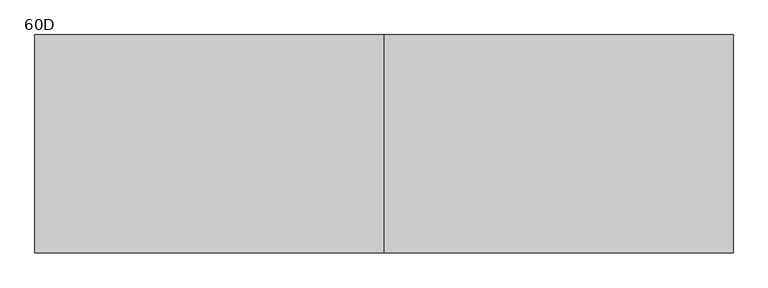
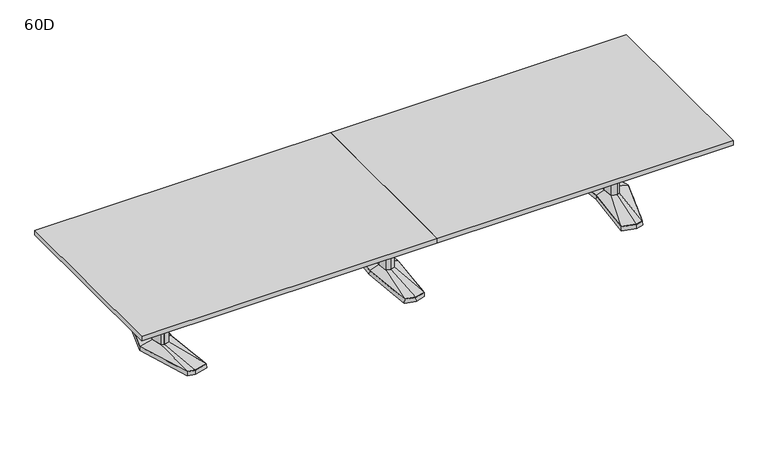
"""IFC4 building model written with IfcOpenShell, lengths in millimetres: furniture geometry, Coalesse_AM_Table_Conference_ETable2_Rectangular_16ft_AluminiumBase : 60D."""

from ifc_helpers import new_model, si_unit, frame, origin, place, context, project, spatial, polyline, outline, extrude, faceted_brep, source, transform, mapped, element, save
from ifc_brep_helpers import plane_surface, spline_surface, advanced_brep


def furniture_60d_a288c0e9(model_context):
    return source(origin(), model_context, "Body", "SolidModel", [
        faceted_brep([(-81.2333791, -433.8053819, 38.1), (0.0, -455.556576, 38.1), (81.2333791, -433.8053819, 38.1), (119.0564774, 0.0, 38.1), (81.2333791, 433.8053819, 38.1), (0.0, 455.556576, 38.1), (-81.2333791, 433.8053819, 38.1), (-119.0564774, 0.0, 38.1), (-82.7182795, -435.0512063, 3.175), (-120.65, 0.0, 3.175), (-82.7182795, 435.0512063, 3.175), (0.0, 457.2, 3.175), (82.7182795, 435.0512063, 3.175), (120.65, 0.0, 3.175), (82.7182795, -435.0512063, 3.175), (0.0, -457.2, 3.175), (0.0, 429.2617927, 3.175), (-77.9676806, 408.3850278, 3.175), (-74.7019821, 382.9646737, 3.175), (0.0, 402.9670094, 3.175), (74.7019821, 382.9646737, 3.175), (77.9676806, 408.3850278, 3.175), (0.0, -429.2617927, 3.175), (77.9676806, -408.3850278, 3.175), (74.7019821, -382.9646737, 3.175), (0.0, -402.9670094, 3.175), (-74.7019821, -382.9646737, 3.175), (-77.9676806, -408.3850278, 3.175), (-71.8574262, 114.6326257, 3.175), (-82.5426076, 0.0, 3.175), (-71.8574262, -114.6326257, 3.175), (0.0, -133.8761372, 3.175), (71.8574262, -114.6326257, 3.175), (82.5426076, 0.0, 3.175), (71.8574262, 114.6326257, 3.175), (0.0, 133.8761372, 3.175), (0.0, 429.2617927, 0.0), (77.9676806, 408.3850278, 0.0), (74.7019821, 382.9646737, 0.0), (0.0, 402.9670094, 0.0), (-74.7019821, 382.9646737, 0.0), (-77.9676806, 408.3850278, 0.0), (0.0, -429.2617927, 0.0), (-77.9676806, -408.3850278, 0.0), (-74.7019821, -382.9646737, 0.0), (0.0, -402.9670094, 0.0), (74.7019821, -382.9646737, 0.0), (77.9676806, -408.3850278, 0.0), (-71.8574262, 114.6326257, 0.0), (0.0, 133.8761372, 0.0), (71.8574262, 114.6326257, 0.0), (82.5426076, 0.0, 0.0), (71.8574262, -114.6326257, 0.0), (0.0, -133.8761372, 0.0), (-71.8574262, -114.6326257, 0.0), (-82.5426076, 0.0, 0.0)], [[[0, 1, 2, 3, 4, 5, 6, 7]], [[8, 9, 10, 11, 12, 13, 14, 15], [16, 17, 18, 19, 20, 21], [22, 23, 24, 25, 26, 27], [28, 29, 30, 31, 32, 33, 34, 35]], [[1, 0, 8, 15]], [[2, 1, 15, 14]], [[3, 2, 14, 13]], [[4, 3, 13, 12]], [[5, 4, 12, 11]], [[6, 5, 11, 10]], [[7, 6, 10, 9]], [[0, 7, 9, 8]], [[36, 37, 38, 39, 40, 41]], [[42, 43, 44, 45, 46, 47]], [[48, 49, 50, 51, 52, 53, 54, 55]], [[36, 41, 17, 16]], [[41, 40, 18, 17]], [[40, 39, 19, 18]], [[39, 38, 20, 19]], [[38, 37, 21, 20]], [[37, 36, 16, 21]], [[42, 47, 23, 22]], [[47, 46, 24, 23]], [[46, 45, 25, 24]], [[45, 44, 26, 25]], [[44, 43, 27, 26]], [[43, 42, 22, 27]], [[48, 55, 29, 28]], [[55, 54, 30, 29]], [[54, 53, 31, 30]], [[53, 52, 32, 31]], [[52, 51, 33, 32]], [[51, 50, 34, 33]], [[50, 49, 35, 34]], [[49, 48, 28, 35]]]),
        faceted_brep([(-36.3832834, 84.6900825, 698.5), (-44.2774487, 0.0, 698.5), (-36.3832834, -84.6900825, 698.5), (0.0, -94.4335728, 698.5), (36.3832834, -84.6900825, 698.5), (44.2774487, 0.0, 698.5), (36.3832834, 84.6900825, 698.5), (0.0, 94.4335728, 698.5), (-36.3832834, 84.6900825, 63.5), (0.0, 94.4335728, 63.5), (36.3832834, 84.6900825, 63.5), (44.2774487, 0.0, 63.5), (36.3832834, -84.6900825, 63.5), (0.0, -94.4335728, 63.5), (-36.3832834, -84.6900825, 63.5), (-44.2774487, 0.0, 63.5)], [[[0, 1, 2, 3, 4, 5, 6, 7]], [[8, 9, 10, 11, 12, 13, 14, 15]], [[1, 0, 8, 15]], [[2, 1, 15, 14]], [[3, 2, 14, 13]], [[4, 3, 13, 12]], [[5, 4, 12, 11]], [[6, 5, 11, 10]], [[7, 6, 10, 9]], [[0, 7, 9, 8]]]),
        advanced_brep(
        [(-36.3832834, 84.6900825, 63.5), (-44.2774487, 0.0, 63.5), (-36.3832834, -84.6900825, 63.5), (0.0, -94.4335728, 63.5), (36.3832834, -84.6900825, 63.5), (44.2774487, 0.0, 63.5), (36.3832834, 84.6900825, 63.5), (0.0, 94.4335728, 63.5), (-81.2333791, 433.8053819, 38.1), (0.0, 455.556576, 38.1), (81.2333791, 433.8053819, 38.1), (119.0564774, 0.0, 38.1), (81.2333791, -433.8053819, 38.1), (0.0, -455.556576, 38.1), (-81.2333791, -433.8053819, 38.1), (-119.0564774, 0.0, 38.1)],
        [
            (0, 1),
            (1, 2),
            (2, 3),
            (3, 4),
            (4, 5),
            (5, 6),
            (6, 7),
            (7, 0),
            (8, 9),
            (9, 10),
            (10, 11),
            (11, 12),
            (12, 13),
            (13, 14),
            (14, 15),
            (15, 8),
            (15, 1),
            (0, 8),
            (14, 2),
            (13, 3),
            (12, 4),
            (11, 5),
            (10, 6),
            (9, 7),
        ],
        [
            plane_surface(frame((0.0, 0.0, 63.5), z_axis=(0.0, 0.0, 1.0000000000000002), x_axis=(-0.9659615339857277, -0.25868574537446, 0.0))),
            plane_surface(frame((0.0, 0.0, 38.1), z_axis=(0.0, 0.0, -1.0000000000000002), x_axis=(-0.9659615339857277, -0.25868574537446, 0.0))),
            spline_surface(1, 1, [[(-81.2333791, 433.8053819, 38.1), (-36.3832834, 84.6900825, 63.5)], [(-119.0564774, 0.0, 38.1), (-44.2774487, 0.0, 63.5)]], [2, 2], [2, 2], [0.0, 1.0], [0.0, 1.0]),
            spline_surface(1, 1, [[(-119.0564774, 0.0, 38.1), (-44.2774487, 0.0, 63.5)], [(-81.2333791, -433.8053819, 38.1), (-36.3832834, -84.6900825, 63.5)]], [2, 2], [2, 2], [0.0, 1.0], [0.0, 1.0]),
            spline_surface(1, 1, [[(-81.2333791, -433.8053819, 38.1), (-36.3832834, -84.6900825, 63.5)], [(0.0, -455.556576, 38.1), (0.0, -94.4335728, 63.5)]], [2, 2], [2, 2], [0.0, 1.0], [0.0, 1.0]),
            spline_surface(1, 1, [[(0.0, -455.556576, 38.1), (0.0, -94.4335728, 63.5)], [(81.2333791, -433.8053819, 38.1), (36.3832834, -84.6900825, 63.5)]], [2, 2], [2, 2], [0.0, 1.0], [0.0, 1.0]),
            spline_surface(1, 1, [[(81.2333791, -433.8053819, 38.1), (36.3832834, -84.6900825, 63.5)], [(119.0564774, 0.0, 38.1), (44.2774487, 0.0, 63.5)]], [2, 2], [2, 2], [0.0, 1.0], [0.0, 1.0]),
            spline_surface(1, 1, [[(119.0564774, 0.0, 38.1), (44.2774487, 0.0, 63.5)], [(81.2333791, 433.8053819, 38.1), (36.3832834, 84.6900825, 63.5)]], [2, 2], [2, 2], [0.0, 1.0], [0.0, 1.0]),
            spline_surface(1, 1, [[(81.2333791, 433.8053819, 38.1), (36.3832834, 84.6900825, 63.5)], [(0.0, 455.556576, 38.1), (0.0, 94.4335728, 63.5)]], [2, 2], [2, 2], [0.0, 1.0], [0.0, 1.0]),
            spline_surface(1, 1, [[(0.0, 455.556576, 38.1), (0.0, 94.4335728, 63.5)], [(-81.2333791, 433.8053819, 38.1), (-36.3832834, 84.6900825, 63.5)]], [2, 2], [2, 2], [0.0, 1.0], [0.0, 1.0]),
        ],
        [
            (0, [[1, 2, 3, 4, 5, 6, 7, 8]]),
            (1, [[9, 10, 11, 12, 13, 14, 15, 16]]),
            (2, [[-16, 17, -1, 18]]),
            (3, [[-15, 19, -2, -17]]),
            (4, [[-14, 20, -3, -19]]),
            (5, [[-13, 21, -4, -20]]),
            (6, [[-12, 22, -5, -21]]),
            (7, [[-11, 23, -6, -22]]),
            (8, [[-10, 24, -7, -23]]),
            (9, [[-9, -18, -8, -24]]),
        ],
    ),
        faceted_brep([(1820.2306835, 455.5848221, 38.1), (1710.6531277, 426.2263816, 38.1), (1751.8163717, 0.0, 38.1), (1710.6531277, -426.2263816, 38.1), (1820.2306835, -455.5848221, 38.1), (1876.3570396, -440.5478297, 38.1), (2013.6684269, 0.0, 38.1), (1876.3570396, 440.5478297, 38.1), (1820.2306754, 457.2283104, 3.175), (1877.6124472, 441.8549756, 3.175), (2015.33125, 0.0, 3.175), (1877.6124472, -441.8549756, 3.175), (1820.2306754, -457.2283104, 3.175), (1708.94375, -427.4118891, 3.175), (1750.2214856, 0.0, 3.175), (1708.94375, 427.4118891, 3.175), (1823.820115, 428.3273875, 3.175), (1718.7718228, 402.1057253, 3.175), (1726.890518, 377.985069, 3.175), (1827.4095466, 401.0699529, 3.175), (1877.9691725, 387.524361, 3.175), (1877.1631061, 414.0360954, 3.175), (1823.820115, -428.3273875, 3.175), (1877.1631061, -414.0360954, 3.175), (1877.9691725, -387.524361, 3.175), (1827.4095466, -401.0699529, 3.175), (1726.890518, -377.985069, 3.175), (1718.7718228, -402.1057253, 3.175), (1950.4153621, 0.0, 3.175), (1918.1459611, 120.4193755, 3.175), (1869.4987222, 133.471665, 3.175), (1789.6180526, 119.4176561, 3.175), (1778.4868466, 0.0, 3.175), (1789.6180526, -119.4176561, 3.175), (1869.4987222, -133.471665, 3.175), (1918.1459611, -120.4193755, 3.175), (1823.820115, 428.3273875, 0.0), (1877.1631061, 414.0360954, 0.0), (1877.9691725, 387.524361, 0.0), (1827.4095466, 401.0699529, 0.0), (1726.890518, 377.985069, 0.0), (1718.7718228, 402.1057253, 0.0), (1823.820115, -428.3273875, 0.0), (1718.7718228, -402.1057253, 0.0), (1726.890518, -377.985069, 0.0), (1827.4095466, -401.0699529, 0.0), (1877.9691725, -387.524361, 0.0), (1877.1631061, -414.0360954, 0.0), (1950.4153621, 0.0, 0.0), (1918.1459611, -120.4193755, 0.0), (1869.4987222, -133.471665, 0.0), (1789.6180526, -119.4176561, 0.0), (1778.4868466, 0.0, 0.0), (1789.6180526, 119.4176561, 0.0), (1869.4987222, 133.471665, 0.0), (1918.1459611, 120.4193755, 0.0)], [[[0, 1, 2, 3, 4, 5, 6, 7]], [[8, 9, 10, 11, 12, 13, 14, 15], [16, 17, 18, 19, 20, 21], [22, 23, 24, 25, 26, 27], [28, 29, 30, 31, 32, 33, 34, 35]], [[7, 9, 8, 0]], [[6, 10, 9, 7]], [[5, 11, 10, 6]], [[4, 12, 11, 5]], [[3, 13, 12, 4]], [[2, 14, 13, 3]], [[1, 15, 14, 2]], [[0, 8, 15, 1]], [[36, 37, 38, 39, 40, 41]], [[42, 43, 44, 45, 46, 47]], [[48, 49, 50, 51, 52, 53, 54, 55]], [[36, 16, 21, 37]], [[37, 21, 20, 38]], [[38, 20, 19, 39]], [[39, 19, 18, 40]], [[40, 18, 17, 41]], [[41, 17, 16, 36]], [[42, 22, 27, 43]], [[43, 27, 26, 44]], [[44, 26, 25, 45]], [[45, 25, 24, 46]], [[46, 24, 23, 47]], [[47, 23, 22, 42]], [[48, 28, 35, 49]], [[49, 35, 34, 50]], [[50, 34, 33, 51]], [[51, 33, 32, 52]], [[52, 32, 31, 53]], [[53, 31, 30, 54]], [[54, 30, 29, 55]], [[55, 29, 28, 48]]]),
        faceted_brep([(1910.9710836, 0.0, 698.5), (1887.0358546, 89.3188359, 698.5), (1870.1824984, 93.8406728, 698.5), (1867.7826511, 94.4845635, 698.5), (1824.855146, 86.9320037, 698.5), (1816.7520056, 0.0, 698.5), (1824.855146, -86.9320037, 698.5), (1867.7826511, -94.4845635, 698.5), (1870.1824984, -93.8406728, 698.5), (1887.0358546, -89.3188359, 698.5), (1910.9710836, 0.0, 63.5), (1887.0358546, -89.3188359, 63.5), (1870.1824984, -93.8406728, 63.5), (1867.7826511, -94.4845635, 63.5), (1824.855146, -86.9320037, 63.5), (1816.7520056, 0.0, 63.5), (1824.855146, 86.9320037, 63.5), (1867.7826511, 94.4845635, 63.5), (1870.1824984, 93.8406728, 63.5), (1887.0358546, 89.3188359, 63.5)], [[[0, 1, 2, 3, 4, 5, 6, 7, 8, 9]], [[10, 11, 12, 13, 14, 15, 16, 17, 18, 19]], [[9, 11, 10, 0]], [[8, 12, 11, 9]], [[7, 13, 12, 8]], [[6, 14, 13, 7]], [[5, 15, 14, 6]], [[4, 16, 15, 5]], [[3, 17, 16, 4]], [[2, 18, 17, 3]], [[1, 19, 18, 2]], [[0, 10, 19, 1]]]),
        advanced_brep(
        [(1867.7826511, 94.4845635, 63.5), (1824.855146, 86.9320037, 63.5), (1816.7520056, 0.0, 63.5), (1824.855146, -86.9320037, 63.5), (1867.7826511, -94.4845635, 63.5), (1887.0358546, -89.3188359, 63.5), (1910.9710836, 0.0, 63.5), (1887.0358546, 89.3188359, 63.5), (1820.2306835, 455.5848221, 38.1), (1876.3570396, 440.5478297, 38.1), (2013.6684269, 0.0, 38.1), (1876.3570396, -440.5478297, 38.1), (1820.2306835, -455.5848221, 38.1), (1710.6531277, -426.2263816, 38.1), (1751.8163717, 0.0, 38.1), (1710.6531277, 426.2263816, 38.1)],
        [
            (0, 1),
            (1, 2),
            (2, 3),
            (3, 4),
            (4, 5),
            (5, 6),
            (6, 7),
            (7, 0),
            (8, 9),
            (9, 10),
            (10, 11),
            (11, 12),
            (12, 13),
            (13, 14),
            (14, 15),
            (15, 8),
            (8, 0),
            (7, 9),
            (6, 10),
            (5, 11),
            (4, 12),
            (3, 13),
            (2, 14),
            (1, 15),
        ],
        [
            plane_surface(frame((1860.8837991, 0.0, 63.5), z_axis=(0.0, 0.0, 1.0), x_axis=(-0.25884244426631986, -0.9659195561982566, 0.0))),
            plane_surface(frame((1822.4958125, 0.0, 38.1), z_axis=(0.0, 0.0, -1.0), x_axis=(-0.25884244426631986, -0.9659195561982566, 0.0))),
            spline_surface(1, 1, [[(1820.2306835, 455.5848221, 38.1), (1876.3570396, 440.5478297, 38.1)], [(1867.7826511, 94.4845635, 63.5), (1887.0358546, 89.3188359, 63.5)]], [2, 2], [2, 2], [0.0, 1.0], [0.0, 1.0]),
            spline_surface(1, 1, [[(1876.3570396, 440.5478297, 38.1), (2013.6684269, 0.0, 38.1)], [(1887.0358546, 89.3188359, 63.5), (1910.9710836, 0.0, 63.5)]], [2, 2], [2, 2], [0.0, 1.0], [0.0, 1.0]),
            spline_surface(1, 1, [[(2013.6684269, 0.0, 38.1), (1876.3570396, -440.5478297, 38.1)], [(1910.9710836, 0.0, 63.5), (1887.0358546, -89.3188359, 63.5)]], [2, 2], [2, 2], [0.0, 1.0], [0.0, 1.0]),
            spline_surface(1, 1, [[(1876.3570396, -440.5478297, 38.1), (1820.2306835, -455.5848221, 38.1)], [(1887.0358546, -89.3188359, 63.5), (1867.7826511, -94.4845635, 63.5)]], [2, 2], [2, 2], [0.0, 1.0], [0.0, 1.0]),
            spline_surface(1, 1, [[(1820.2306835, -455.5848221, 38.1), (1710.6531277, -426.2263816, 38.1)], [(1867.7826511, -94.4845635, 63.5), (1824.855146, -86.9320037, 63.5)]], [2, 2], [2, 2], [0.0, 1.0], [0.0, 1.0]),
            spline_surface(1, 1, [[(1710.6531277, -426.2263816, 38.1), (1751.8163717, 0.0, 38.1)], [(1824.855146, -86.9320037, 63.5), (1816.7520056, 0.0, 63.5)]], [2, 2], [2, 2], [0.0, 1.0], [0.0, 1.0]),
            spline_surface(1, 1, [[(1751.8163717, 0.0, 38.1), (1710.6531277, 426.2263816, 38.1)], [(1816.7520056, 0.0, 63.5), (1824.855146, 86.9320037, 63.5)]], [2, 2], [2, 2], [0.0, 1.0], [0.0, 1.0]),
            spline_surface(1, 1, [[(1710.6531277, 426.2263816, 38.1), (1820.2306835, 455.5848221, 38.1)], [(1824.855146, 86.9320037, 63.5), (1867.7826511, 94.4845635, 63.5)]], [2, 2], [2, 2], [0.0, 1.0], [0.0, 1.0]),
        ],
        [
            (0, [[1, 2, 3, 4, 5, 6, 7, 8]]),
            (1, [[9, 10, 11, 12, 13, 14, 15, 16]]),
            (2, [[17, -8, 18, -9]]),
            (3, [[-18, -7, 19, -10]]),
            (4, [[-19, -6, 20, -11]]),
            (5, [[-20, -5, 21, -12]]),
            (6, [[-21, -4, 22, -13]]),
            (7, [[-22, -3, 23, -14]]),
            (8, [[-23, -2, 24, -15]]),
            (9, [[-24, -1, -17, -16]]),
        ],
    ),
        faceted_brep([(-1820.2306835, 455.5848221, 38.1), (-1876.3570396, 440.5478297, 38.1), (-2013.6684269, 0.0, 38.1), (-1876.3570396, -440.5478297, 38.1), (-1820.2306835, -455.5848221, 38.1), (-1710.6531277, -426.2263816, 38.1), (-1751.8163717, 0.0, 38.1), (-1710.6531277, 426.2263816, 38.1), (-1820.2306754, 457.2283104, 3.175), (-1708.94375, 427.4118891, 3.175), (-1750.2214856, 0.0, 3.175), (-1708.94375, -427.4118891, 3.175), (-1820.2306754, -457.2283104, 3.175), (-1877.6124472, -441.8549756, 3.175), (-2015.33125, 0.0, 3.175), (-1877.6124472, 441.8549756, 3.175), (-1823.820115, 428.3273875, 3.175), (-1877.1631061, 414.0360954, 3.175), (-1877.9691725, 387.524361, 3.175), (-1827.4095466, 401.0699529, 3.175), (-1726.890518, 377.985069, 3.175), (-1718.7718228, 402.1057253, 3.175), (-1823.820115, -428.3273875, 3.175), (-1718.7718228, -402.1057253, 3.175), (-1726.890518, -377.985069, 3.175), (-1827.4095466, -401.0699529, 3.175), (-1877.9691725, -387.524361, 3.175), (-1877.1631061, -414.0360954, 3.175), (-1950.4153621, 0.0, 3.175), (-1918.1459611, -120.4193755, 3.175), (-1869.4987222, -133.471665, 3.175), (-1789.6180526, -119.4176561, 3.175), (-1778.4868466, 0.0, 3.175), (-1789.6180526, 119.4176561, 3.175), (-1869.4987222, 133.471665, 3.175), (-1918.1459611, 120.4193755, 3.175), (-1823.820115, 428.3273875, 0.0), (-1718.7718228, 402.1057253, 0.0), (-1726.890518, 377.985069, 0.0), (-1827.4095466, 401.0699529, 0.0), (-1877.9691725, 387.524361, 0.0), (-1877.1631061, 414.0360954, 0.0), (-1823.820115, -428.3273875, 0.0), (-1877.1631061, -414.0360954, 0.0), (-1877.9691725, -387.524361, 0.0), (-1827.4095466, -401.0699529, 0.0), (-1726.890518, -377.985069, 0.0), (-1718.7718228, -402.1057253, 0.0), (-1950.4153621, 0.0, 0.0), (-1918.1459611, 120.4193755, 0.0), (-1869.4987222, 133.471665, 0.0), (-1789.6180526, 119.4176561, 0.0), (-1778.4868466, 0.0, 0.0), (-1789.6180526, -119.4176561, 0.0), (-1869.4987222, -133.471665, 0.0), (-1918.1459611, -120.4193755, 0.0)], [[[0, 1, 2, 3, 4, 5, 6, 7]], [[8, 9, 10, 11, 12, 13, 14, 15], [16, 17, 18, 19, 20, 21], [22, 23, 24, 25, 26, 27], [28, 29, 30, 31, 32, 33, 34, 35]], [[1, 0, 8, 15]], [[2, 1, 15, 14]], [[3, 2, 14, 13]], [[4, 3, 13, 12]], [[5, 4, 12, 11]], [[6, 5, 11, 10]], [[7, 6, 10, 9]], [[0, 7, 9, 8]], [[36, 37, 38, 39, 40, 41]], [[42, 43, 44, 45, 46, 47]], [[48, 49, 50, 51, 52, 53, 54, 55]], [[36, 41, 17, 16]], [[41, 40, 18, 17]], [[40, 39, 19, 18]], [[39, 38, 20, 19]], [[38, 37, 21, 20]], [[37, 36, 16, 21]], [[42, 47, 23, 22]], [[47, 46, 24, 23]], [[46, 45, 25, 24]], [[45, 44, 26, 25]], [[44, 43, 27, 26]], [[43, 42, 22, 27]], [[48, 55, 29, 28]], [[55, 54, 30, 29]], [[54, 53, 31, 30]], [[53, 52, 32, 31]], [[52, 51, 33, 32]], [[51, 50, 34, 33]], [[50, 49, 35, 34]], [[49, 48, 28, 35]]]),
        faceted_brep([(-1910.9710836, 0.0, 698.5), (-1887.0358546, -89.3188359, 698.5), (-1870.1824984, -93.8406728, 698.5), (-1867.7826511, -94.4845635, 698.5), (-1824.855146, -86.9320037, 698.5), (-1816.7520056, 0.0, 698.5), (-1824.855146, 86.9320037, 698.5), (-1867.7826511, 94.4845635, 698.5), (-1870.1824984, 93.8406728, 698.5), (-1887.0358546, 89.3188359, 698.5), (-1910.9710836, 0.0, 63.5), (-1887.0358546, 89.3188359, 63.5), (-1870.1824984, 93.8406728, 63.5), (-1867.7826511, 94.4845635, 63.5), (-1824.855146, 86.9320037, 63.5), (-1816.7520056, 0.0, 63.5), (-1824.855146, -86.9320037, 63.5), (-1867.7826511, -94.4845635, 63.5), (-1870.1824984, -93.8406728, 63.5), (-1887.0358546, -89.3188359, 63.5)], [[[0, 1, 2, 3, 4, 5, 6, 7, 8, 9]], [[10, 11, 12, 13, 14, 15, 16, 17, 18, 19]], [[1, 0, 10, 19]], [[2, 1, 19, 18]], [[3, 2, 18, 17]], [[4, 3, 17, 16]], [[5, 4, 16, 15]], [[6, 5, 15, 14]], [[7, 6, 14, 13]], [[8, 7, 13, 12]], [[9, 8, 12, 11]], [[0, 9, 11, 10]]]),
        advanced_brep(
        [(-1867.7826511, 94.4845635, 63.5), (-1887.0358546, 89.3188359, 63.5), (-1910.9710836, 0.0, 63.5), (-1887.0358546, -89.3188359, 63.5), (-1867.7826511, -94.4845635, 63.5), (-1824.855146, -86.9320037, 63.5), (-1816.7520056, 0.0, 63.5), (-1824.855146, 86.9320037, 63.5), (-1820.2306835, 455.5848221, 38.1), (-1710.6531277, 426.2263816, 38.1), (-1751.8163717, 0.0, 38.1), (-1710.6531277, -426.2263816, 38.1), (-1820.2306835, -455.5848221, 38.1), (-1876.3570396, -440.5478297, 38.1), (-2013.6684269, 0.0, 38.1), (-1876.3570396, 440.5478297, 38.1)],
        [
            (0, 1),
            (1, 2),
            (2, 3),
            (3, 4),
            (4, 5),
            (5, 6),
            (6, 7),
            (7, 0),
            (8, 9),
            (9, 10),
            (10, 11),
            (11, 12),
            (12, 13),
            (13, 14),
            (14, 15),
            (15, 8),
            (15, 1),
            (0, 8),
            (14, 2),
            (13, 3),
            (12, 4),
            (11, 5),
            (10, 6),
            (9, 7),
        ],
        [
            plane_surface(frame((-1860.8837991, 0.0, 63.5), z_axis=(0.0, 0.0, 1.0), x_axis=(0.25884244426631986, -0.9659195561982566, 0.0))),
            plane_surface(frame((-1822.4958125, 0.0, 38.1), z_axis=(0.0, 0.0, -1.0), x_axis=(0.25884244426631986, -0.9659195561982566, 0.0))),
            spline_surface(1, 1, [[(-1820.2306835, 455.5848221, 38.1), (-1867.7826511, 94.4845635, 63.5)], [(-1876.3570396, 440.5478297, 38.1), (-1887.0358546, 89.3188359, 63.5)]], [2, 2], [2, 2], [0.0, 1.0], [0.0, 1.0]),
            spline_surface(1, 1, [[(-1876.3570396, 440.5478297, 38.1), (-1887.0358546, 89.3188359, 63.5)], [(-2013.6684269, 0.0, 38.1), (-1910.9710836, 0.0, 63.5)]], [2, 2], [2, 2], [0.0, 1.0], [0.0, 1.0]),
            spline_surface(1, 1, [[(-2013.6684269, 0.0, 38.1), (-1910.9710836, 0.0, 63.5)], [(-1876.3570396, -440.5478297, 38.1), (-1887.0358546, -89.3188359, 63.5)]], [2, 2], [2, 2], [0.0, 1.0], [0.0, 1.0]),
            spline_surface(1, 1, [[(-1876.3570396, -440.5478297, 38.1), (-1887.0358546, -89.3188359, 63.5)], [(-1820.2306835, -455.5848221, 38.1), (-1867.7826511, -94.4845635, 63.5)]], [2, 2], [2, 2], [0.0, 1.0], [0.0, 1.0]),
            spline_surface(1, 1, [[(-1820.2306835, -455.5848221, 38.1), (-1867.7826511, -94.4845635, 63.5)], [(-1710.6531277, -426.2263816, 38.1), (-1824.855146, -86.9320037, 63.5)]], [2, 2], [2, 2], [0.0, 1.0], [0.0, 1.0]),
            spline_surface(1, 1, [[(-1710.6531277, -426.2263816, 38.1), (-1824.855146, -86.9320037, 63.5)], [(-1751.8163717, 0.0, 38.1), (-1816.7520056, 0.0, 63.5)]], [2, 2], [2, 2], [0.0, 1.0], [0.0, 1.0]),
            spline_surface(1, 1, [[(-1751.8163717, 0.0, 38.1), (-1816.7520056, 0.0, 63.5)], [(-1710.6531277, 426.2263816, 38.1), (-1824.855146, 86.9320037, 63.5)]], [2, 2], [2, 2], [0.0, 1.0], [0.0, 1.0]),
            spline_surface(1, 1, [[(-1710.6531277, 426.2263816, 38.1), (-1824.855146, 86.9320037, 63.5)], [(-1820.2306835, 455.5848221, 38.1), (-1867.7826511, 94.4845635, 63.5)]], [2, 2], [2, 2], [0.0, 1.0], [0.0, 1.0]),
        ],
        [
            (0, [[1, 2, 3, 4, 5, 6, 7, 8]]),
            (1, [[9, 10, 11, 12, 13, 14, 15, 16]]),
            (2, [[-16, 17, -1, 18]]),
            (3, [[-15, 19, -2, -17]]),
            (4, [[-14, 20, -3, -19]]),
            (5, [[-13, 21, -4, -20]]),
            (6, [[-12, 22, -5, -21]]),
            (7, [[-11, 23, -6, -22]]),
            (8, [[-10, 24, -7, -23]]),
            (9, [[-9, -18, -8, -24]]),
        ],
    ),
        extrude(outline(polyline([(96.8375, 698.5), (103.1875, 698.5), (103.1875, 476.25), (-103.1875, 476.25), (-103.1875, 698.5), (-96.8375, 698.5), (-96.8375, 482.6), (96.8375, 482.6), (96.8375, 698.5)])), frame((44.2774487, 0.0, 0.0), z_axis=(1.0, 0.0, 0.0), x_axis=(0.0, 1.0, 0.0)), (0.0, 0.0, 1.0), 1772.6163013),
        extrude(outline(polyline([(2438.4, 762.0), (2438.4, -762.0), (0.0, -762.0), (0.0, 762.0), (2438.4, 762.0)])), frame((0.0, 0.0, 698.5), z_axis=(0.0, 0.0, 1.0), x_axis=(1.0, 0.0, 0.0)), (0.0, 0.0, 1.0), 38.1),
        extrude(outline(polyline([(0.0, 762.0), (0.0, -762.0), (-2438.4, -762.0), (-2438.4, 762.0), (0.0, 762.0)])), frame((0.0, 0.0, 698.5), z_axis=(0.0, 0.0, 1.0), x_axis=(1.0, 0.0, 0.0)), (0.0, 0.0, 1.0), 38.1),
        extrude(outline(polyline([(96.8375, 698.5), (103.1875, 698.5), (103.1875, 476.25), (-103.1875, 476.25), (-103.1875, 698.5), (-96.8375, 698.5), (-96.8375, 482.6), (96.8375, 482.6), (96.8375, 698.5)])), frame((-1816.89375, 0.0, 0.0), z_axis=(1.0, 0.0, 0.0), x_axis=(0.0, 1.0, 0.0)), (0.0, 0.0, 1.0), 1772.6163013),
    ])


if __name__ == "__main__":
    model = new_model("IFC4")
    model_context = context("Model", 3, world=origin())
    ifc_project = project(units=[si_unit("LENGTHUNIT", "METRE", prefix="MILLI")], contexts=[model_context])
    site = spatial("IfcSite", under=ifc_project)
    building = spatial("IfcBuilding", under=site)
    placement = place(None, origin())
    furniture_60d_shape = furniture_60d_a288c0e9(model_context)
    element("IfcFurniture", 1, ObjectType="Coalesse_AM_Table_Conference_ETable2_Rectangular_16ft_AluminiumBase : 60D", at=placement, inside=building, context=model_context, shape_type="MappedRepresentation", body=[
        mapped(furniture_60d_shape, transform((0.0, 0.0, 0.0), x_axis=(1.0, 0.0, 0.0), y_axis=(0.0, 1.0, 0.0), z_axis=(0.0, 0.0, 1.0))),
    ])
    save(model, "model.ifc")
